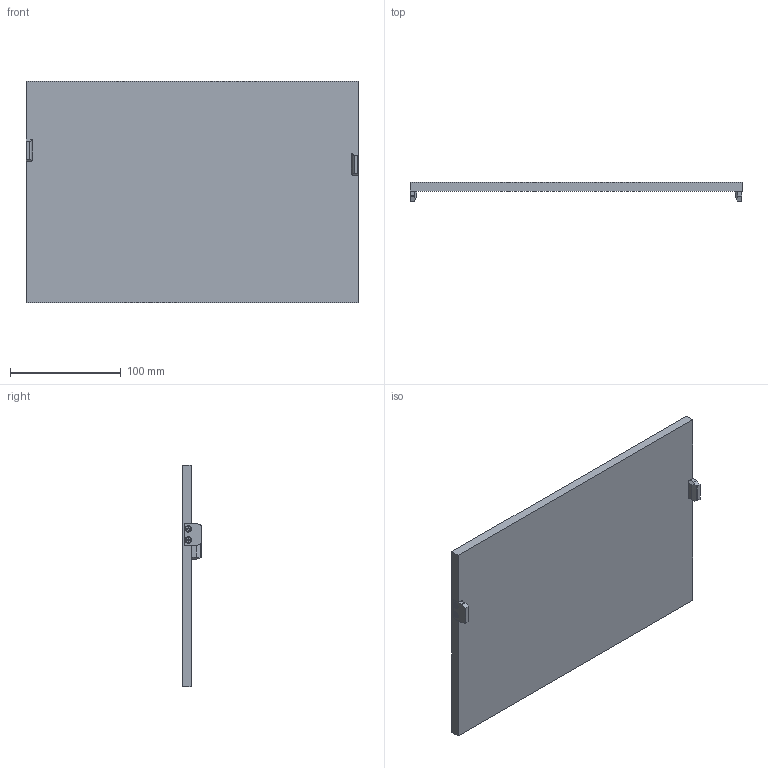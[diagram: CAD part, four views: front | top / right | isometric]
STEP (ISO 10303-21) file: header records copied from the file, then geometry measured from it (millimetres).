
FILE_DESCRIPTION (( 'STEP AP203' ), '1' );
FILE_NAME ('VT02501.STEP', '2016-07-12T08:00:34', ( '' ), ( '' ), 'SwSTEP 2.0', 'SolidWorks 2016', '' );
FILE_SCHEMA (( 'CONFIG_CONTROL_DESIGN' ));
Length unit declared in the file: millimetre
Products named in the file (1): VT02501
Bounding box: 299.75 x 17.5 x 199.75 mm (x, y, z)
Volume: 480650.1 mm3; surface area: 130880.1 mm2
Topology: 7 solids, 7 shells, 194 faces, 452 edges, 272 vertices
Faces by surface type: plane 104, cylinder 50, cone 24, bspline 16
Entity records: 5865 total; most frequent: CARTESIAN_POINT 1463, DIRECTION 910, ORIENTED_EDGE 872, EDGE_CURVE 436, AXIS2_PLACEMENT_3D 319, VERTEX_POINT 272, VECTOR 272, LINE 272
